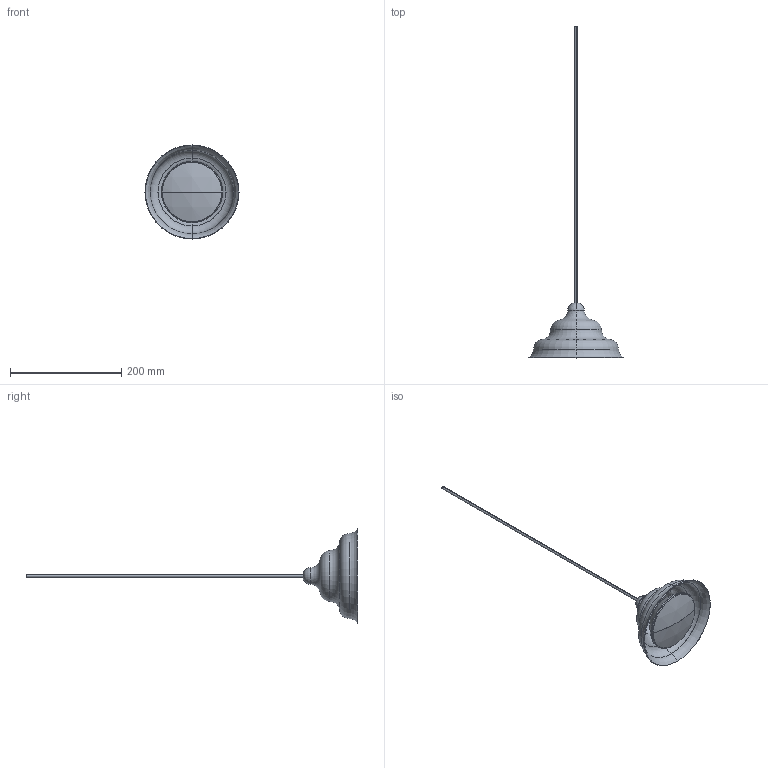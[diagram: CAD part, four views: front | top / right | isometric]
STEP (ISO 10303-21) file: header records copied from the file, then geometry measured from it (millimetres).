
FILE_DESCRIPTION (( 'STEP AP203' ), '1' );
FILE_NAME ('2023 12 19 FALA klosz S .STEP', '2024-03-06T15:20:48', ( '' ), ( '' ), 'SwSTEP 2.0', 'SolidWorks 2019', '' );
FILE_SCHEMA (( 'CONFIG_CONTROL_DESIGN' ));
Length unit declared in the file: millimetre
Products named in the file (1): 2023 12 19 FALA klosz S 
Bounding box: 168.98 x 596.6 x 168.98 mm (x, y, z)
Volume: 328178.1 mm3; surface area: 130945.1 mm2
Topology: 6 solids, 6 shells, 58 faces, 104 edges, 59 vertices
Faces by surface type: torus 32, plane 10, cylinder 8, sphere 6, cone 2
Entity records: 1501 total; most frequent: DIRECTION 316, CARTESIAN_POINT 222, ORIENTED_EDGE 208, AXIS2_PLACEMENT_3D 153, EDGE_CURVE 104, CIRCLE 94, VERTEX_POINT 59, EDGE_LOOP 59
